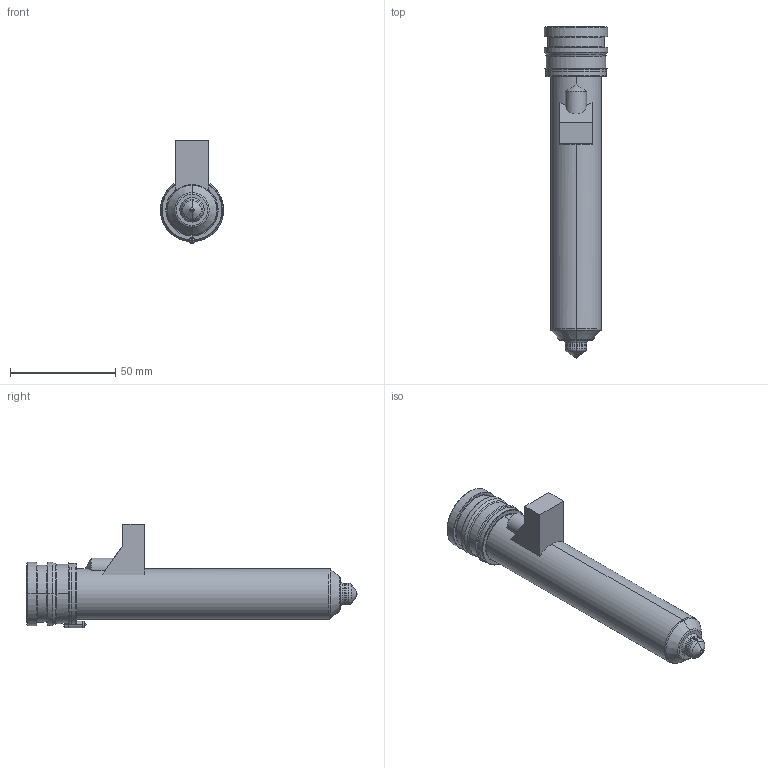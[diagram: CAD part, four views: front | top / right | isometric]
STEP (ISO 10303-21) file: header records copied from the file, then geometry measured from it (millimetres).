
FILE_DESCRIPTION((''),'2;1');
FILE_NAME('MPN-10-29-TX10-136-M','2026-02-05T12:51:27',('UPTIO'),('Thermoplay S.p.A.'),'CREO PARAMETRIC BY PTC INC, 2023494','CREO PARAMETRIC BY PTC INC, 2023494','');
FILE_SCHEMA(('CONFIG_CONTROL_DESIGN','SHAPE_APPEARANCE_LAYERS_GROUPS'));
Length unit declared in the file: millimetre
Products named in the file (1): MPN-10-29-TX10-136-M
Bounding box: 30 x 157.5 x 49 mm (x, y, z)
Volume: 49147.7 mm3; surface area: 50418.5 mm2
Topology: 3 solids, 5 shells, 541 faces, 1383 edges, 844 vertices
Faces by surface type: cylinder 177, plane 146, bspline 73, torus 67, cone 64, sphere 10, extrusion 4
Entity records: 29297 total; most frequent: CARTESIAN_POINT 13531, ORIENTED_EDGE 2748, DIRECTION 2568, EDGE_CURVE 1374, AXIS2_PLACEMENT_3D 1017, VERTEX_POINT 844, EDGE_LOOP 570, CIRCLE 552
